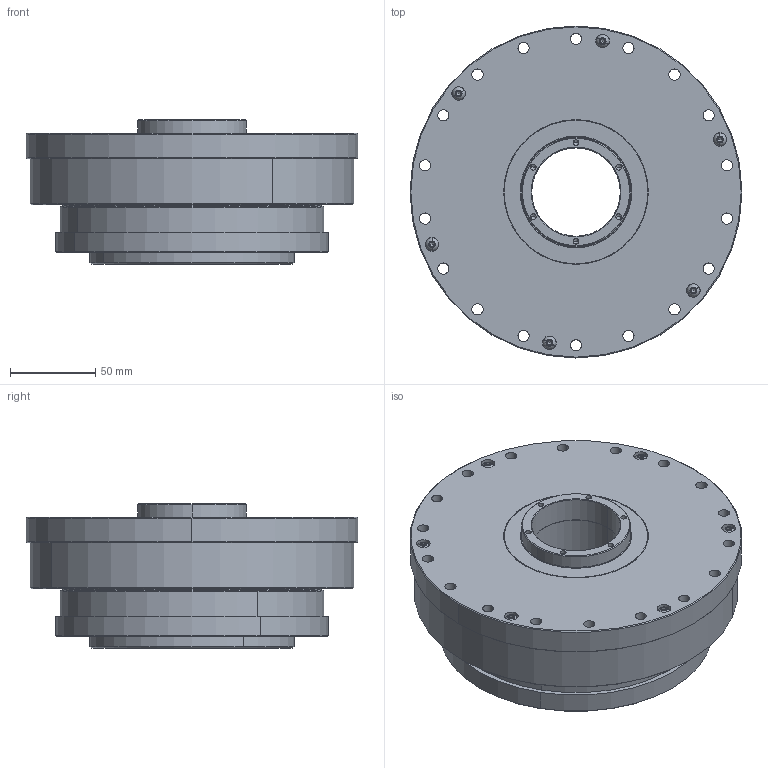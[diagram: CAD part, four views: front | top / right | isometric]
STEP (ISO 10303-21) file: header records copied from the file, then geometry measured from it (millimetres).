
FILE_DESCRIPTION (( 'STEP AP203' ), '1' );
FILE_NAME ('FHG-45-XXX-AH.STEP', '2022-07-21T08:26:46', ( '微软用户' ), ( '微软中国' ), 'SwSTEP 2.0', 'SolidWorks 2016', '' );
FILE_SCHEMA (( 'CONFIG_CONTROL_DESIGN' ));
Length unit declared in the file: millimetre
Products named in the file (1): FHG-45-XXX-AH
Bounding box: 195 x 195 x 85 mm (x, y, z)
Volume: 1276460.2 mm3; surface area: 557190.6 mm2
Topology: 54 solids, 54 shells, 1640 faces, 4665 edges, 2961 vertices
Faces by surface type: cylinder 581, bspline 453, plane 248, cone 240, torus 60, sphere 58
Entity records: 64201 total; most frequent: CARTESIAN_POINT 24210, ORIENTED_EDGE 8964, DIRECTION 7815, EDGE_CURVE 4482, AXIS2_PLACEMENT_3D 3429, VERTEX_POINT 2892, CIRCLE 2241, EDGE_LOOP 1990
